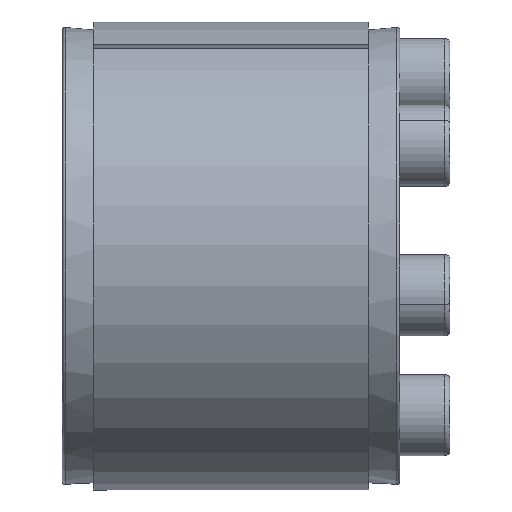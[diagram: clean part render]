
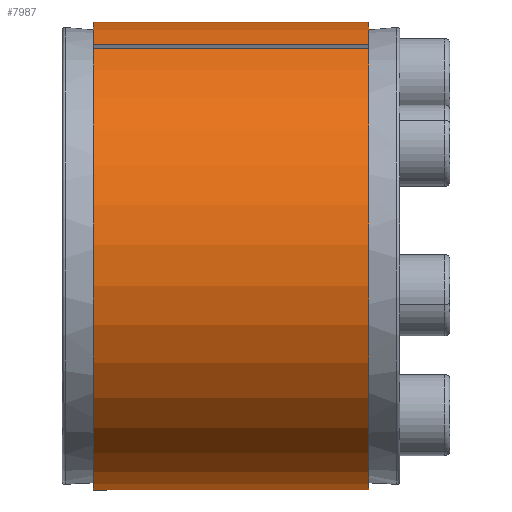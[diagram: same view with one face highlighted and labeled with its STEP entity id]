
A CAD part, front view. The second image highlights one B-rep face of the part: STEP entity #7987.
In plain terms, the highlighted cylindrical face has radius 37.5 mm (diameter 75 mm), a partial arc.
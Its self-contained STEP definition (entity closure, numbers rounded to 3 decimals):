
#7440=CARTESIAN_POINT('',(-22.,0.,0.));
#7441=DIRECTION('',(-1.,0.,0.));
#7442=DIRECTION('',(0.,-0.434,0.901));
#7443=AXIS2_PLACEMENT_3D('',#7440,#7441,#7442);
#7448=DIRECTION('',(1.,0.,0.));
#7449=VECTOR('',#7448,44.);
#7450=CARTESIAN_POINT('',(-22.,-17.44,33.198));
#7451=LINE('',#7450,#7449);
#7455=CARTESIAN_POINT('',(22.,0.,0.));
#7456=DIRECTION('',(1.,0.,0.));
#7457=DIRECTION('',(0.,-0.465,0.885));
#7458=AXIS2_PLACEMENT_3D('',#7455,#7456,#7457);
#7463=DIRECTION('',(1.,0.,0.));
#7464=VECTOR('',#7463,44.);
#7465=CARTESIAN_POINT('',(-22.,-16.271,33.786));
#7466=LINE('',#7465,#7464);
#7817=CARTESIAN_POINT('',(-22.,-16.271,33.786));
#7819=VERTEX_POINT('',#7817);
#7821=CARTESIAN_POINT('',(-22.,-17.44,33.198));
#7823=VERTEX_POINT('',#7821);
#7845=CARTESIAN_POINT('',(22.,-16.271,33.786));
#7846=VERTEX_POINT('',#7845);
#7847=CARTESIAN_POINT('',(22.,-17.44,33.198));
#7848=VERTEX_POINT('',#7847);
#7974=CARTESIAN_POINT('',(-24.2,0.,0.));
#7975=DIRECTION('',(1.,0.,0.));
#7976=DIRECTION('',(0.,-1.,0.));
#7977=AXIS2_PLACEMENT_3D('',#7974,#7975,#7976);
#7978=CYLINDRICAL_SURFACE('',#7977,37.5);
#7980=ORIENTED_EDGE('',*,*,#7979,.T.);
#7982=ORIENTED_EDGE('',*,*,#7981,.T.);
#7983=ORIENTED_EDGE('',*,*,#7966,.T.);
#7984=ORIENTED_EDGE('',*,*,#7938,.F.);
#7985=EDGE_LOOP('',(#7980,#7982,#7983,#7984));
#7986=FACE_OUTER_BOUND('',#7985,.F.);
#7987=ADVANCED_FACE('',(#7986),#7978,.T.);
#7444=CIRCLE('',#7443,37.5);
#7459=CIRCLE('',#7458,37.5);
#7938=EDGE_CURVE('',#7819,#7846,#7466,.T.);
#7966=EDGE_CURVE('',#7848,#7846,#7459,.T.);
#7979=EDGE_CURVE('',#7819,#7823,#7444,.T.);
#7981=EDGE_CURVE('',#7823,#7848,#7451,.T.);
